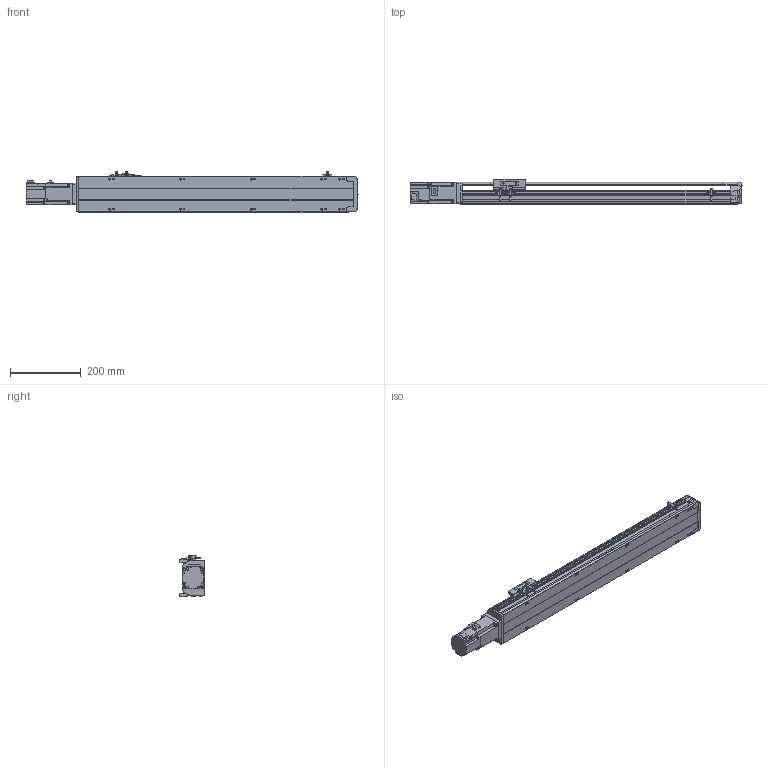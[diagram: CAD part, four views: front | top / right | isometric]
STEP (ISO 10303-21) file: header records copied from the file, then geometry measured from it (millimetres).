
FILE_DESCRIPTION( ( 'STEP AP214' ), '1' );
FILE_NAME( 'x:/temp/worker_13/temp/exporttempdir_3252_146_Urm0j/format_0/PSS120-L10-S550-BC-T40-C1-N(0).stp', '2022-06-02T00:33:13', ( 'License CC BY-ND 4.0' ), ( 'CADENAS' ), ' ', 'PARTsolutions', ' ' );
FILE_SCHEMA( ( 'AUTOMOTIVE_DESIGN { 1 0 10303 214 1 1 1 1 }' ) );
Length unit declared in the file: millimetre
Products named in the file (8): PSS120-L10-S550-BC-T40-C1-N(0); _PSS120-S550-BC-C1-N_body; _PSS120-N_Q; _PSS120-BC-C1-N_sl; _PSS120-N_sensor; _PSS120BC-N_h; _T40-p1; _PSS120-S550-BC-N_S
Assembly tree (9 placements, depth 2):
  PSS120-L10-S550-BC-T40-C1-N(0)
    _PSS120-S550-BC-C1-N_body
    _PSS120-N_Q
    _PSS120-BC-C1-N_sl
    _PSS120-N_sensor  x3
    _PSS120BC-N_h
    _T40-p1
    _PSS120-S550-BC-N_S
Bounding box: 938.7 x 70 x 117.7 mm (x, y, z)
Volume: 3037633.1 mm3; surface area: 550090.5 mm2
Topology: 9 solids, 9 shells, 817 faces, 2184 edges, 1448 vertices
Faces by surface type: plane 553, cylinder 242, cone 22
Full cylindrical faces by diameter (mm): 2.8 x3, 4 x4, 4.134 x14, 4.2 x4, 4.4 x2, 4.5 x4, 4.6 x3, 4.917 x4, 5 x6, 5.5 x17, 7 x2, 8 x8, 8.5 x14, 14 x1, 28 x1, 32 x1, 50 x1
Entity records: 27917 total; most frequent: CARTESIAN_POINT 4298, DIRECTION 3673, ORIENTED_EDGE 3550, EDGE_CURVE 1775, LINE 1243, VECTOR 1243, VERTEX_POINT 1238, AXIS2_PLACEMENT_3D 1215
